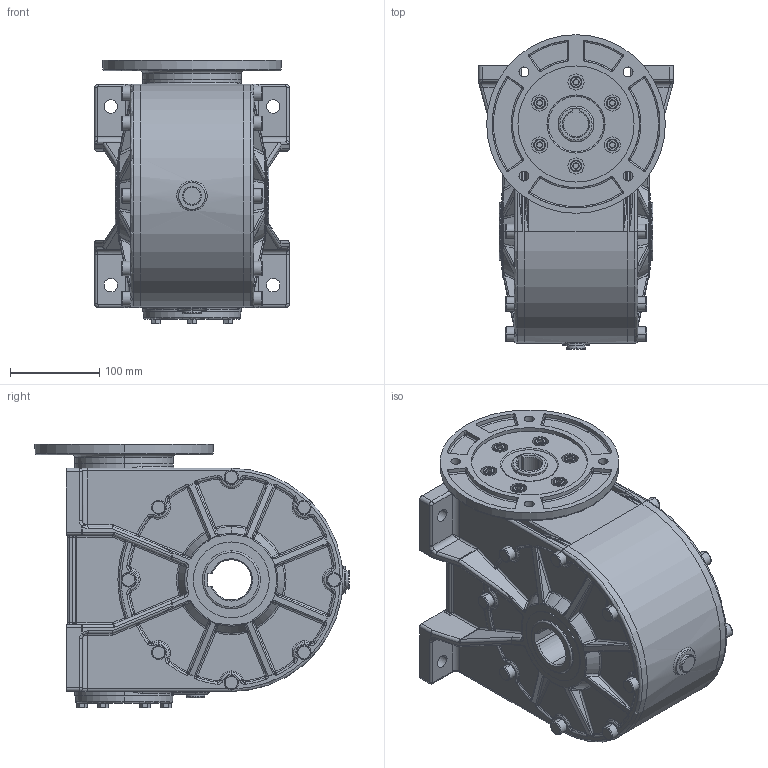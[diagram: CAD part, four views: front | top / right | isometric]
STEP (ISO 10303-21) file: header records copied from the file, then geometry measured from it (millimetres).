
FILE_DESCRIPTION (( 'STEP AP214' ), '1' );
FILE_NAME ('Sestava MRT120-B.STEP', '2007-06-25T11:26:16', ( '' ), ( '' ), 'SwSTEP 2.0', 'SolidWorks 2004146', '' );
FILE_SCHEMA (( 'AUTOMOTIVE_DESIGN' ));
Length unit declared in the file: millimetre
Products named in the file (6): Víèko_Výchozí; Pøíruba MRT120 kulatá _130-165-188; Skøíò120_Výchozí; N021143_Šroub s vnitøním šestihranem DIN 912 - M8 x 25; Patka 120_Výchozí; Sestava MRT120-B
Assembly tree (11 placements, depth 2):
  Sestava MRT120-B
    N021143_Šroub s vnitøním šestihranem DIN 912 - M8 x 25  x6
    Pøíruba MRT120 kulatá _130-165-188
    Patka 120_Výchozí  x2
    Skøíò120_Výchozí
    Víèko_Výchozí
Bounding box: 218 x 352 x 295.3 mm (x, y, z)
Volume: 9676823.7 mm3; surface area: 764163.9 mm2
Topology: 11 solids, 11 shells, 1537 faces, 3560 edges, 2042 vertices
Faces by surface type: torus 449, cylinder 313, plane 284, bspline 270, cone 131, sphere 90
Entity records: 72571 total; most frequent: CARTESIAN_POINT 52322, DIRECTION 4418, ORIENTED_EDGE 4134, EDGE_CURVE 2067, AXIS2_PLACEMENT_3D 1947, VERTEX_POINT 1218, CIRCLE 1187, EDGE_LOOP 951
